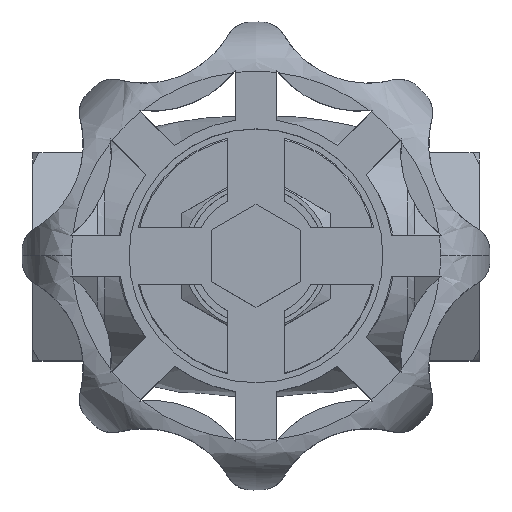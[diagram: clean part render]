
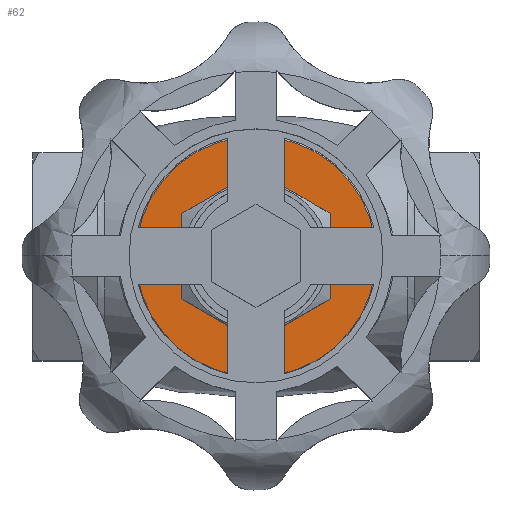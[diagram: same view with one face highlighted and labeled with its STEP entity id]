
A CAD part, top view. The second image highlights one B-rep face of the part: STEP entity #62.
In plain terms, the highlighted planar face has unit normal (0, 0, 1).
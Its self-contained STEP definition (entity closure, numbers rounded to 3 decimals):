
#62=ADVANCED_FACE('',(#501,#502),#500,.F.);
#500=PLANE('',#2851);
#501=FACE_OUTER_BOUND('',#2852,.T.);
#502=FACE_BOUND('',#2853,.T.);
#2848=CARTESIAN_POINT('',(64.967,-58.71,52.292));
#2849=DIRECTION('',(0.,0.,-1.));
#2850=DIRECTION('',(-1.,0.,0.));
#2851=AXIS2_PLACEMENT_3D('',#2848,#2849,#2850);
#2852=EDGE_LOOP('',(#5477,#5478));
#2853=EDGE_LOOP('',(#5479,#5480,#5481,#5482,#5483,#5484,#5485,#5486,#5487,#5488,#5489,#5490));
#5477=ORIENTED_EDGE('',*,*,#6831,.F.);
#5478=ORIENTED_EDGE('',*,*,#6832,.F.);
#5479=ORIENTED_EDGE('',*,*,#6812,.T.);
#5480=ORIENTED_EDGE('',*,*,#6824,.F.);
#5481=ORIENTED_EDGE('',*,*,#6828,.T.);
#5482=ORIENTED_EDGE('',*,*,#6826,.F.);
#5483=ORIENTED_EDGE('',*,*,#6829,.T.);
#5484=ORIENTED_EDGE('',*,*,#6833,.F.);
#5485=ORIENTED_EDGE('',*,*,#6834,.T.);
#5486=ORIENTED_EDGE('',*,*,#6819,.F.);
#5487=ORIENTED_EDGE('',*,*,#6835,.T.);
#5488=ORIENTED_EDGE('',*,*,#6821,.F.);
#5489=ORIENTED_EDGE('',*,*,#6794,.T.);
#5490=ORIENTED_EDGE('',*,*,#6836,.F.);
#6794=EDGE_CURVE('',#7841,#7842,#7843,.T.);
#6812=EDGE_CURVE('',#7962,#7955,#7963,.T.);
#6819=EDGE_CURVE('',#8002,#8009,#8010,.T.);
#6821=EDGE_CURVE('',#7841,#8022,#8023,.T.);
#6824=EDGE_CURVE('',#8035,#7955,#8042,.T.);
#6826=EDGE_CURVE('',#8048,#8055,#8056,.T.);
#6828=EDGE_CURVE('',#8035,#8055,#8068,.T.);
#6829=EDGE_CURVE('',#8048,#8074,#8075,.T.);
#6831=EDGE_CURVE('',#8087,#8088,#8089,.T.);
#6832=EDGE_CURVE('',#8088,#8087,#8095,.T.);
#6833=EDGE_CURVE('',#8101,#8074,#8102,.T.);
#6834=EDGE_CURVE('',#8101,#8009,#8108,.T.);
#6835=EDGE_CURVE('',#8002,#8022,#8114,.T.);
#6836=EDGE_CURVE('',#7962,#7842,#8120,.T.);
#7841=VERTEX_POINT('',#12414);
#7842=VERTEX_POINT('',#12415);
#7843=CIRCLE('',#12419,20.07);
#7955=VERTEX_POINT('',#12486);
#7962=VERTEX_POINT('',#12490);
#7963=CIRCLE('',#12494,20.07);
#8002=VERTEX_POINT('',#12521);
#8009=VERTEX_POINT('',#12525);
#8010=LINE('',#12526,#12527);
#8022=VERTEX_POINT('',#12532);
#8023=LINE('',#12533,#12534);
#8035=VERTEX_POINT('',#12539);
#8042=LINE('',#12543,#12544);
#8048=VERTEX_POINT('',#12546);
#8055=VERTEX_POINT('',#12550);
#8056=LINE('',#12551,#12552);
#8068=CIRCLE('',#12560,20.07);
#8074=VERTEX_POINT('',#12561);
#8075=CIRCLE('',#12565,20.07);
#8087=VERTEX_POINT('',#12569);
#8088=VERTEX_POINT('',#12570);
#8089=CIRCLE('',#12574,28.247);
#8095=CIRCLE('',#12578,28.247);
#8101=VERTEX_POINT('',#12579);
#8102=LINE('',#12580,#12581);
#8108=CIRCLE('',#12586,20.07);
#8114=CIRCLE('',#12590,20.07);
#8120=LINE('',#12591,#12592);
#12414=CARTESIAN_POINT('',(17.343,10.101,52.292));
#12415=CARTESIAN_POINT('',(17.419,9.969,52.292));
#12416=CARTESIAN_POINT('',(0.,0.,52.292));
#12417=DIRECTION('',(0.,0.,-1.));
#12418=DIRECTION('',(1.,0.,0.));
#12419=AXIS2_PLACEMENT_3D('',#12416,#12417,#12418);
#12486=CARTESIAN_POINT('',(17.343,-10.101,52.292));
#12490=CARTESIAN_POINT('',(17.419,-9.969,52.292));
#12491=CARTESIAN_POINT('',(0.,0.,52.292));
#12492=DIRECTION('',(0.,0.,-1.));
#12493=DIRECTION('',(1.,0.,0.));
#12494=AXIS2_PLACEMENT_3D('',#12491,#12492,#12493);
#12521=CARTESIAN_POINT('',(-0.077,20.07,52.292));
#12525=CARTESIAN_POINT('',(-17.343,10.101,52.292));
#12526=CARTESIAN_POINT('',(-0.077,20.07,52.292));
#12527=VECTOR('',#12528,19.937);
#12528=DIRECTION('',(-0.866,-0.5,0.));
#12532=CARTESIAN_POINT('',(0.077,20.07,52.292));
#12533=CARTESIAN_POINT('',(17.343,10.101,52.292));
#12534=VECTOR('',#12535,19.937);
#12535=DIRECTION('',(-0.866,0.5,0.));
#12539=CARTESIAN_POINT('',(0.077,-20.07,52.292));
#12543=CARTESIAN_POINT('',(0.077,-20.07,52.292));
#12544=VECTOR('',#12545,19.937);
#12545=DIRECTION('',(0.866,0.5,0.));
#12546=CARTESIAN_POINT('',(-17.343,-10.101,52.292));
#12550=CARTESIAN_POINT('',(-0.077,-20.07,52.292));
#12551=CARTESIAN_POINT('',(-17.343,-10.101,52.292));
#12552=VECTOR('',#12553,19.937);
#12553=DIRECTION('',(0.866,-0.5,0.));
#12557=CARTESIAN_POINT('',(0.,0.,52.292));
#12558=DIRECTION('',(0.,0.,-1.));
#12559=DIRECTION('',(1.,0.,0.));
#12560=AXIS2_PLACEMENT_3D('',#12557,#12558,#12559);
#12561=CARTESIAN_POINT('',(-17.419,-9.969,52.292));
#12562=CARTESIAN_POINT('',(0.,0.,52.292));
#12563=DIRECTION('',(0.,0.,-1.));
#12564=DIRECTION('',(1.,0.,0.));
#12565=AXIS2_PLACEMENT_3D('',#12562,#12563,#12564);
#12569=CARTESIAN_POINT('',(28.247,0.,52.292));
#12570=CARTESIAN_POINT('',(-28.247,0.,52.292));
#12571=CARTESIAN_POINT('',(0.,0.,52.292));
#12572=DIRECTION('',(0.,0.,-1.));
#12573=DIRECTION('',(-1.,0.,0.));
#12574=AXIS2_PLACEMENT_3D('',#12571,#12572,#12573);
#12575=CARTESIAN_POINT('',(0.,0.,52.292));
#12576=DIRECTION('',(0.,0.,-1.));
#12577=DIRECTION('',(-1.,0.,0.));
#12578=AXIS2_PLACEMENT_3D('',#12575,#12576,#12577);
#12579=CARTESIAN_POINT('',(-17.419,9.969,52.292));
#12580=CARTESIAN_POINT('',(-17.419,9.969,52.292));
#12581=VECTOR('',#12582,19.937);
#12582=DIRECTION('',(0.,-1.,0.));
#12583=CARTESIAN_POINT('',(0.,0.,52.292));
#12584=DIRECTION('',(0.,0.,-1.));
#12585=DIRECTION('',(1.,0.,0.));
#12586=AXIS2_PLACEMENT_3D('',#12583,#12584,#12585);
#12587=CARTESIAN_POINT('',(0.,0.,52.292));
#12588=DIRECTION('',(0.,0.,-1.));
#12589=DIRECTION('',(1.,0.,0.));
#12590=AXIS2_PLACEMENT_3D('',#12587,#12588,#12589);
#12591=CARTESIAN_POINT('',(17.419,-9.969,52.292));
#12592=VECTOR('',#12593,19.937);
#12593=DIRECTION('',(0.,1.,0.));
